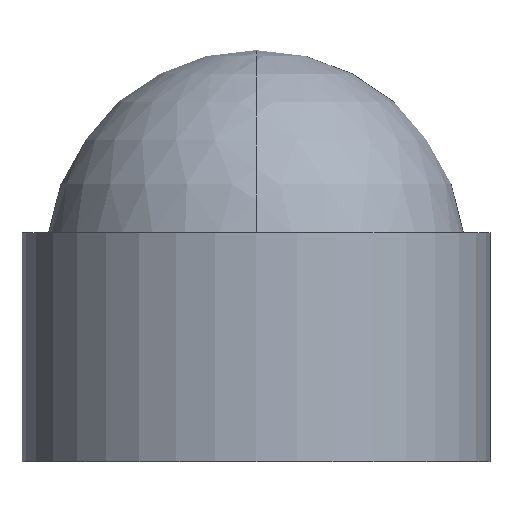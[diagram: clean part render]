
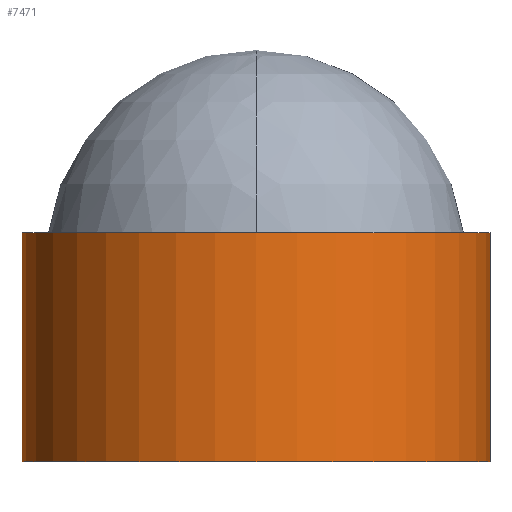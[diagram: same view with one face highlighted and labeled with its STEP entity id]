
A CAD part, front view. The second image highlights one B-rep face of the part: STEP entity #7471.
In plain terms, the highlighted cylindrical face has radius 23.5 mm (diameter 47 mm), a partial arc.
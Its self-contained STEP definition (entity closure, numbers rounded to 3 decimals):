
#6=CARTESIAN_POINT('',(0.,0.,-8.));
#7=DIRECTION('',(0.,0.,1.));
#8=DIRECTION('',(-1.,0.,0.));
#9=AXIS2_PLACEMENT_3D('',#6,#7,#8);
#1786=DIRECTION('',(0.,0.,1.));
#1787=VECTOR('',#1786,23.);
#1788=CARTESIAN_POINT('',(-23.5,0.,-8.));
#1789=LINE('',#1788,#1787);
#1790=DIRECTION('',(0.,0.,-1.));
#1791=VECTOR('',#1790,23.);
#1792=CARTESIAN_POINT('',(23.5,0.,15.));
#1793=LINE('',#1792,#1791);
#1799=CARTESIAN_POINT('',(0.,0.,15.));
#1800=DIRECTION('',(0.,0.,1.));
#1801=DIRECTION('',(-1.,0.,0.));
#1802=AXIS2_PLACEMENT_3D('',#1799,#1800,#1801);
#5592=CARTESIAN_POINT('',(23.5,0.,-8.));
#5593=CARTESIAN_POINT('',(-23.5,0.,-8.));
#5594=VERTEX_POINT('',#5592);
#5595=VERTEX_POINT('',#5593);
#5596=CARTESIAN_POINT('',(23.5,0.,15.));
#5597=CARTESIAN_POINT('',(-23.5,0.,15.));
#5598=VERTEX_POINT('',#5596);
#5599=VERTEX_POINT('',#5597);
#7459=CARTESIAN_POINT('',(0.,0.,-8.));
#7460=DIRECTION('',(0.,0.,1.));
#7461=DIRECTION('',(1.,0.,0.));
#7462=AXIS2_PLACEMENT_3D('',#7459,#7460,#7461);
#7463=CYLINDRICAL_SURFACE('',#7462,23.5);
#7464=ORIENTED_EDGE('',*,*,#6657,.T.);
#7466=ORIENTED_EDGE('',*,*,#7465,.T.);
#7467=ORIENTED_EDGE('',*,*,#6653,.T.);
#7468=ORIENTED_EDGE('',*,*,#6619,.F.);
#7469=EDGE_LOOP('',(#7464,#7466,#7467,#7468));
#7470=FACE_OUTER_BOUND('',#7469,.F.);
#7471=ADVANCED_FACE('',(#7470),#7463,.T.);
#10=CIRCLE('',#9,23.5);
#1803=CIRCLE('',#1802,23.5);
#6619=EDGE_CURVE('',#5595,#5594,#10,.T.);
#6653=EDGE_CURVE('',#5598,#5594,#1793,.T.);
#6657=EDGE_CURVE('',#5595,#5599,#1789,.T.);
#7465=EDGE_CURVE('',#5599,#5598,#1803,.T.);
